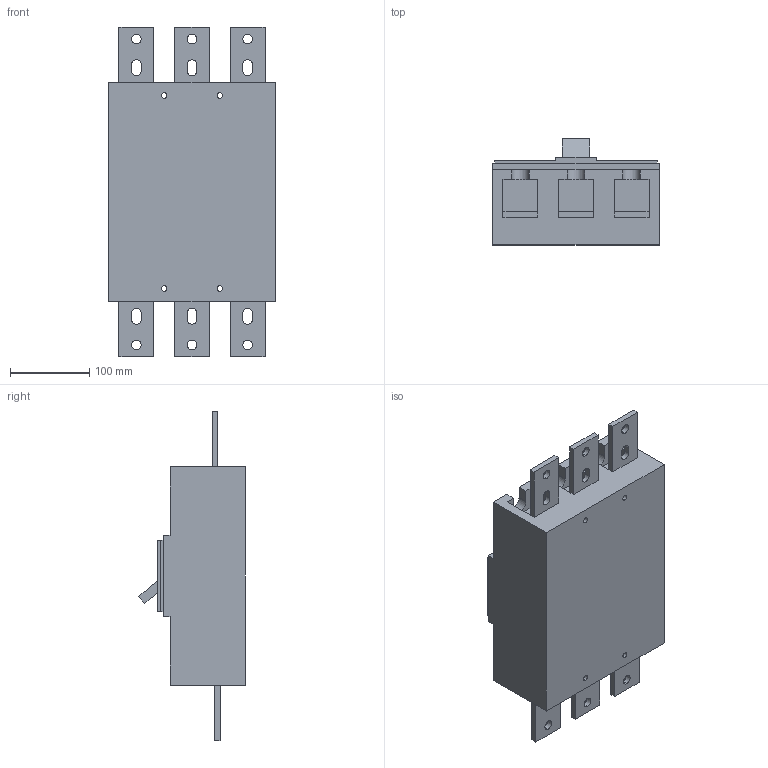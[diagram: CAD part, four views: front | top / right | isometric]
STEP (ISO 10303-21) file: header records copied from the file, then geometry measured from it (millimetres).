
FILE_DESCRIPTION (( 'STEP AP203' ), '1' );
FILE_NAME ('DBS603NS.STEP', '2018-12-10T01:20:55', ( '' ), ( '' ), 'SwSTEP 2.0', 'SolidWorks 2015', '' );
FILE_SCHEMA (( 'CONFIG_CONTROL_DESIGN' ));
Length unit declared in the file: millimetre
Products named in the file (1): DBS603NS
Bounding box: 210 x 133.64 x 415 mm (x, y, z)
Volume: 5429573.9 mm3; surface area: 302931.9 mm2
Topology: 1 solids, 1 shells, 182 faces, 489 edges, 322 vertices
Faces by surface type: plane 113, cylinder 69
Entity records: 5836 total; most frequent: CARTESIAN_POINT 994, DIRECTION 993, ORIENTED_EDGE 978, EDGE_CURVE 489, VECTOR 351, LINE 351, VERTEX_POINT 322, AXIS2_PLACEMENT_3D 321
